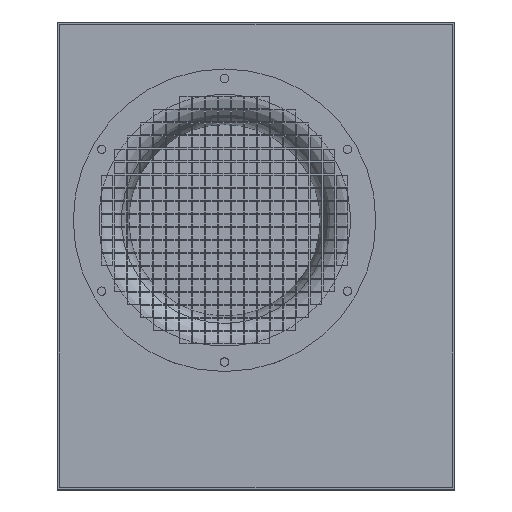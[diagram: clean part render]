
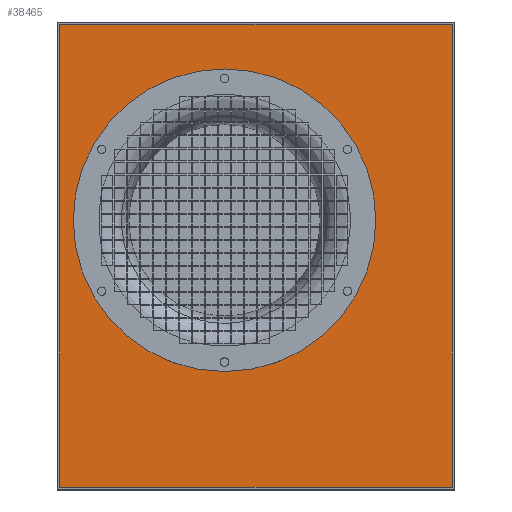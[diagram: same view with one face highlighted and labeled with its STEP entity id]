
A CAD part, top view. The second image highlights one B-rep face of the part: STEP entity #38465.
In plain terms, the highlighted planar face has unit normal (0, 0, 1).
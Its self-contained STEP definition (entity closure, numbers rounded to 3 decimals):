
#651=FACE_BOUND('',#7915,.T.);
#870=CIRCLE('',#39991,127.5);
#3714=PLANE('',#40149);
#5492=FACE_OUTER_BOUND('',#7914,.T.);
#7914=EDGE_LOOP('',(#36235,#36236,#36237,#36238));
#7915=EDGE_LOOP('',(#36239));
#12255=LINE('',#67180,#16562);
#12256=LINE('',#67182,#16563);
#12257=LINE('',#67184,#16564);
#12258=LINE('',#67185,#16565);
#16562=VECTOR('',#47791,10.);
#16563=VECTOR('',#47792,10.);
#16564=VECTOR('',#47793,10.);
#16565=VECTOR('',#47794,10.);
#20498=VERTEX_POINT('',#66690);
#20661=VERTEX_POINT('',#67178);
#20662=VERTEX_POINT('',#67179);
#20663=VERTEX_POINT('',#67181);
#20664=VERTEX_POINT('',#67183);
#25632=EDGE_CURVE('',#20498,#20498,#870,.T.);
#25867=EDGE_CURVE('',#20661,#20662,#12255,.T.);
#25868=EDGE_CURVE('',#20662,#20663,#12256,.T.);
#25869=EDGE_CURVE('',#20663,#20664,#12257,.T.);
#25870=EDGE_CURVE('',#20664,#20661,#12258,.T.);
#36235=ORIENTED_EDGE('',*,*,#25867,.T.);
#36236=ORIENTED_EDGE('',*,*,#25868,.T.);
#36237=ORIENTED_EDGE('',*,*,#25869,.T.);
#36238=ORIENTED_EDGE('',*,*,#25870,.T.);
#36239=ORIENTED_EDGE('',*,*,#25632,.T.);
#38465=ADVANCED_FACE('',(#5492,#651),#3714,.T.);
#39991=AXIS2_PLACEMENT_3D('',#66691,#47307,#47308);
#40149=AXIS2_PLACEMENT_3D('',#67177,#47789,#47790);
#47307=DIRECTION('center_axis',(0.,0.,-1.));
#47308=DIRECTION('ref_axis',(1.,0.,0.));
#47789=DIRECTION('center_axis',(0.,0.,1.));
#47790=DIRECTION('ref_axis',(1.,0.,0.));
#47791=DIRECTION('',(0.,1.,0.));
#47792=DIRECTION('',(-1.,0.,0.));
#47793=DIRECTION('',(0.,-1.,0.));
#47794=DIRECTION('',(1.,0.,0.));
#66690=CARTESIAN_POINT('',(127.5,0.,2.));
#66691=CARTESIAN_POINT('Origin',(0.,0.,
2.));
#67177=CARTESIAN_POINT('Origin',(26.5,-30.,2.));
#67178=CARTESIAN_POINT('',(192.,-225.,2.));
#67179=CARTESIAN_POINT('',(192.,165.,2.));
#67180=CARTESIAN_POINT('',(192.,-30.,2.));
#67181=CARTESIAN_POINT('',(-139.,165.,2.));
#67182=CARTESIAN_POINT('',(26.5,165.,2.));
#67183=CARTESIAN_POINT('',(-139.,-225.,2.));
#67184=CARTESIAN_POINT('',(-139.,-30.,2.));
#67185=CARTESIAN_POINT('',(26.5,-225.,2.));
